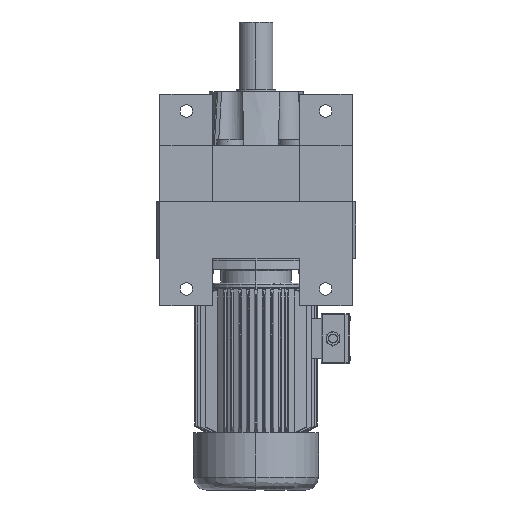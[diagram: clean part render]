
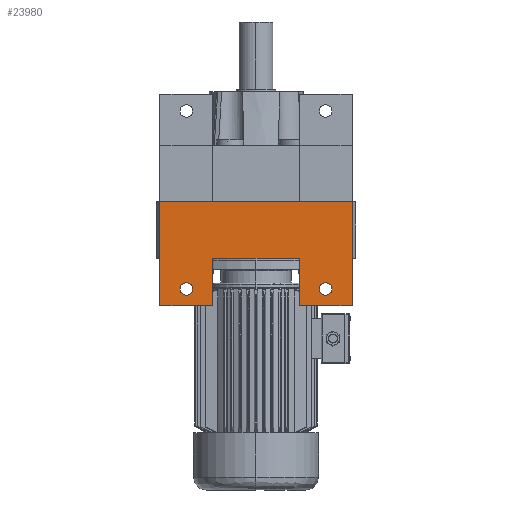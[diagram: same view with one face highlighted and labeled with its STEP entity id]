
A CAD part, front view. The second image highlights one B-rep face of the part: STEP entity #23980.
In plain terms, the highlighted planar face has unit normal (0, -1, 0).
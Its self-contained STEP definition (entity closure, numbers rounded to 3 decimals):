
#320 = EDGE_CURVE ( 'NONE', #6384, #29682, #39511, .T. ) ;
#1146 = CARTESIAN_POINT ( 'NONE',  ( -145., -250., -64. ) ) ;
#1190 = EDGE_CURVE ( 'NONE', #29682, #38076, #45415, .T. ) ;
#1372 = ORIENTED_EDGE ( 'NONE', *, *, #38981, .F. ) ;
#2038 = EDGE_CURVE ( 'NONE', #42249, #44792, #3133, .T. ) ;
#2516 = DIRECTION ( 'NONE',  ( 0., -1., 0. ) ) ;
#2548 = CARTESIAN_POINT ( 'NONE',  ( 145., -250., -77. ) ) ;
#3133 = CIRCLE ( 'NONE', #42627, 13. ) ;
#3313 = DIRECTION ( 'NONE',  ( -1., 0., 0. ) ) ;
#3394 = EDGE_CURVE ( 'NONE', #43734, #3424, #43330, .T. ) ;
#3424 = VERTEX_POINT ( 'NONE', #8231 ) ;
#3440 = AXIS2_PLACEMENT_3D ( 'NONE', #33954, #5532, #41659 ) ;
#4031 = CIRCLE ( 'NONE', #43077, 13. ) ;
#4475 = CARTESIAN_POINT ( 'NONE',  ( -90., -250., 341. ) ) ;
#4575 = DIRECTION ( 'NONE',  ( 0., 0., 1. ) ) ;
#5127 = FACE_BOUND ( 'NONE', #12417, .T. ) ;
#5532 = DIRECTION ( 'NONE',  ( 0., 1., 0. ) ) ;
#5822 = CARTESIAN_POINT ( 'NONE',  ( -145., -250., -64. ) ) ;
#6384 = VERTEX_POINT ( 'NONE', #22912 ) ;
#7429 = CARTESIAN_POINT ( 'NONE',  ( 200., -250., 117. ) ) ;
#8231 = CARTESIAN_POINT ( 'NONE',  ( -145., -250., -51. ) ) ;
#8247 = CARTESIAN_POINT ( 'NONE',  ( 200., -250., -99. ) ) ;
#8554 = DIRECTION ( 'NONE',  ( 0., -1., 0. ) ) ;
#9428 = CARTESIAN_POINT ( 'NONE',  ( -145., -250., -77. ) ) ;
#9467 = ORIENTED_EDGE ( 'NONE', *, *, #2038, .F. ) ;
#9559 = CARTESIAN_POINT ( 'NONE',  ( 145., -250., -64. ) ) ;
#9834 = VERTEX_POINT ( 'NONE', #8247 ) ;
#10946 = EDGE_LOOP ( 'NONE', ( #15777, #43846, #18193, #40146, #34435, #1372, #27358, #37299 ) ) ;
#11578 = DIRECTION ( 'NONE',  ( 0., 0., 1. ) ) ;
#12417 = EDGE_LOOP ( 'NONE', ( #20343, #9467 ) ) ;
#13121 = VECTOR ( 'NONE', #11578, 1000. ) ;
#13139 = DIRECTION ( 'NONE',  ( 0., -1., 0. ) ) ;
#13749 = EDGE_CURVE ( 'NONE', #44792, #42249, #34355, .T. ) ;
#13855 = DIRECTION ( 'NONE',  ( -1., 0., 0. ) ) ;
#13968 = VECTOR ( 'NONE', #3313, 1000. ) ;
#14140 = VECTOR ( 'NONE', #33818, 1000. ) ;
#14433 = DIRECTION ( 'NONE',  ( 0., 0., -1. ) ) ;
#14705 = FACE_OUTER_BOUND ( 'NONE', #10946, .T. ) ;
#15625 = CARTESIAN_POINT ( 'NONE',  ( 90., -250., 117. ) ) ;
#15663 = DIRECTION ( 'NONE',  ( -1., 0., 0. ) ) ;
#15777 = ORIENTED_EDGE ( 'NONE', *, *, #1190, .F. ) ;
#17544 = ORIENTED_EDGE ( 'NONE', *, *, #3394, .F. ) ;
#17932 = VECTOR ( 'NONE', #37136, 1000. ) ;
#18090 = CARTESIAN_POINT ( 'NONE',  ( 200., -250., 117. ) ) ;
#18193 = ORIENTED_EDGE ( 'NONE', *, *, #22783, .F. ) ;
#19196 = CARTESIAN_POINT ( 'NONE',  ( 145., -250., -64. ) ) ;
#20184 = DIRECTION ( 'NONE',  ( 0., 0., 1. ) ) ;
#20343 = ORIENTED_EDGE ( 'NONE', *, *, #13749, .F. ) ;
#21717 = EDGE_CURVE ( 'NONE', #31684, #45753, #26330, .T. ) ;
#22227 = CARTESIAN_POINT ( 'NONE',  ( 90., -250., 0. ) ) ;
#22469 = CARTESIAN_POINT ( 'NONE',  ( 166., -250., -99. ) ) ;
#22783 = EDGE_CURVE ( 'NONE', #31684, #6384, #44104, .T. ) ;
#22912 = CARTESIAN_POINT ( 'NONE',  ( -200., -250., -99. ) ) ;
#23478 = PLANE ( 'NONE',  #3440 ) ;
#23980 = ADVANCED_FACE ( 'NONE', ( #14705, #5127, #41085 ), #23478, .F. ) ;
#24472 = EDGE_LOOP ( 'NONE', ( #36497, #17544 ) ) ;
#25393 = LINE ( 'NONE', #18090, #40493 ) ;
#25556 = AXIS2_PLACEMENT_3D ( 'NONE', #19196, #30440, #46494 ) ;
#25845 = CARTESIAN_POINT ( 'NONE',  ( -90., -250., -99. ) ) ;
#26330 = LINE ( 'NONE', #4475, #17932 ) ;
#27358 = ORIENTED_EDGE ( 'NONE', *, *, #35694, .F. ) ;
#27572 = EDGE_CURVE ( 'NONE', #38076, #9834, #25393, .T. ) ;
#28729 = AXIS2_PLACEMENT_3D ( 'NONE', #1146, #8554, #4575 ) ;
#29682 = VERTEX_POINT ( 'NONE', #36514 ) ;
#30440 = DIRECTION ( 'NONE',  ( 0., -1., 0. ) ) ;
#30783 = EDGE_CURVE ( 'NONE', #44379, #45753, #40357, .T. ) ;
#31626 = VECTOR ( 'NONE', #15663, 1000. ) ;
#31684 = VERTEX_POINT ( 'NONE', #25845 ) ;
#32539 = DIRECTION ( 'NONE',  ( 1., 0., 0. ) ) ;
#32683 = CARTESIAN_POINT ( 'NONE',  ( 166., -250., 117. ) ) ;
#32698 = VERTEX_POINT ( 'NONE', #44452 ) ;
#33818 = DIRECTION ( 'NONE',  ( 0., 0., 1. ) ) ;
#33954 = CARTESIAN_POINT ( 'NONE',  ( 166., -250., 117. ) ) ;
#34133 = VECTOR ( 'NONE', #32539, 1000. ) ;
#34355 = CIRCLE ( 'NONE', #25556, 13. ) ;
#34435 = ORIENTED_EDGE ( 'NONE', *, *, #30783, .F. ) ;
#34514 = VECTOR ( 'NONE', #13855, 1000. ) ;
#35524 = CARTESIAN_POINT ( 'NONE',  ( 93.05, -250., 0. ) ) ;
#35694 = EDGE_CURVE ( 'NONE', #9834, #32698, #43458, .T. ) ;
#36497 = ORIENTED_EDGE ( 'NONE', *, *, #44639, .F. ) ;
#36514 = CARTESIAN_POINT ( 'NONE',  ( -200., -250., 117. ) ) ;
#37136 = DIRECTION ( 'NONE',  ( 0., 0., 1. ) ) ;
#37299 = ORIENTED_EDGE ( 'NONE', *, *, #27572, .F. ) ;
#38076 = VERTEX_POINT ( 'NONE', #7429 ) ;
#38931 = CARTESIAN_POINT ( 'NONE',  ( 145., -250., -51. ) ) ;
#38981 = EDGE_CURVE ( 'NONE', #32698, #44379, #45082, .T. ) ;
#39511 = LINE ( 'NONE', #40632, #13121 ) ;
#39601 = CARTESIAN_POINT ( 'NONE',  ( -90., -250., 0. ) ) ;
#40146 = ORIENTED_EDGE ( 'NONE', *, *, #21717, .T. ) ;
#40357 = LINE ( 'NONE', #35524, #13968 ) ;
#40493 = VECTOR ( 'NONE', #14433, 1000. ) ;
#40632 = CARTESIAN_POINT ( 'NONE',  ( -200., -250., 117. ) ) ;
#41085 = FACE_BOUND ( 'NONE', #24472, .T. ) ;
#41569 = DIRECTION ( 'NONE',  ( 0., 0., 1. ) ) ;
#41659 = DIRECTION ( 'NONE',  ( -1., 0., 0. ) ) ;
#41974 = CARTESIAN_POINT ( 'NONE',  ( 166., -250., -99. ) ) ;
#42249 = VERTEX_POINT ( 'NONE', #2548 ) ;
#42627 = AXIS2_PLACEMENT_3D ( 'NONE', #9559, #13139, #41569 ) ;
#43077 = AXIS2_PLACEMENT_3D ( 'NONE', #5822, #2516, #20184 ) ;
#43330 = CIRCLE ( 'NONE', #28729, 13. ) ;
#43458 = LINE ( 'NONE', #22469, #31626 ) ;
#43734 = VERTEX_POINT ( 'NONE', #9428 ) ;
#43846 = ORIENTED_EDGE ( 'NONE', *, *, #320, .F. ) ;
#44104 = LINE ( 'NONE', #41974, #34514 ) ;
#44379 = VERTEX_POINT ( 'NONE', #22227 ) ;
#44452 = CARTESIAN_POINT ( 'NONE',  ( 90., -250., -99. ) ) ;
#44639 = EDGE_CURVE ( 'NONE', #3424, #43734, #4031, .T. ) ;
#44792 = VERTEX_POINT ( 'NONE', #38931 ) ;
#45082 = LINE ( 'NONE', #15625, #14140 ) ;
#45415 = LINE ( 'NONE', #32683, #34133 ) ;
#45753 = VERTEX_POINT ( 'NONE', #39601 ) ;
#46494 = DIRECTION ( 'NONE',  ( 0., 0., 1. ) ) ;
